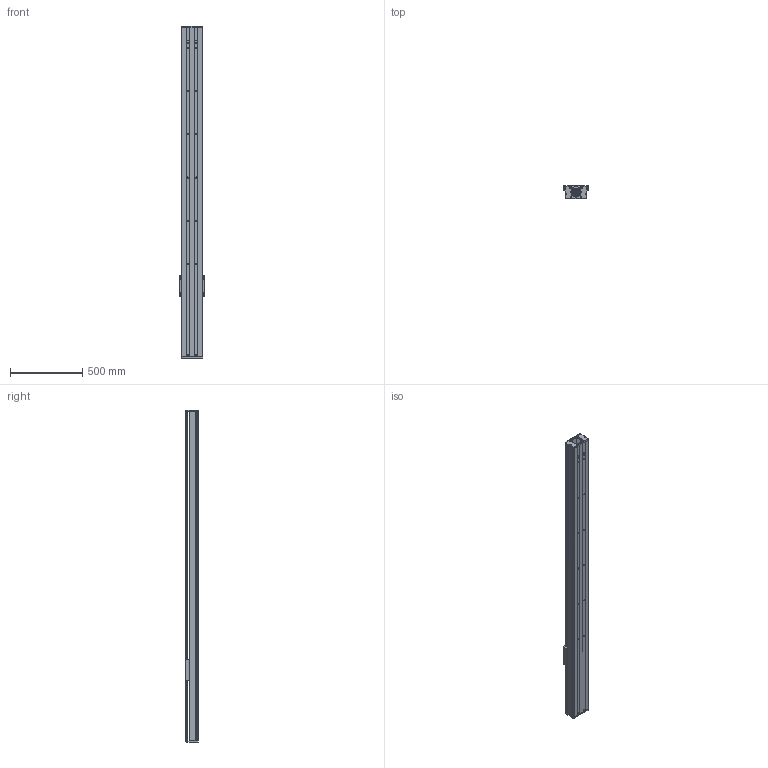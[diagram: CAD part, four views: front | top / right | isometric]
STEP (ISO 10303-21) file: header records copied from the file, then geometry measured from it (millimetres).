
FILE_DESCRIPTION (( 'STEP AP203' ), '1' );
FILE_NAME ('CF150-P2000.STEP', '2016-02-23T05:45:45', ( 'Sky123.Org' ), ( 'Sky123.Org' ), 'SwSTEP 2.0', 'SolidWorks 2015', '' );
FILE_SCHEMA (( 'CONFIG_CONTROL_DESIGN' ));
Length unit declared in the file: millimetre
Products named in the file (20): 蚾饜极2^蚾饜极1; deep groove ball bearings gb_Rolling bearings 6002 GB 276-94; 150賑輸; ѹȦ-15; 150臏倰第; 150耜啣; 长撑圈-15; HGR15絳寢; CF150裔啣; M15X1坶踡蹟譫; hGH15CA賑輸; CF150-P2000; 撑圈-15; BK15+BF15; BK15; 150-20蹟譫釱; 150-86俋离萇儂假蚾啣; SFU2005-3蹟譫; BF15
Assembly tree (24 placements, depth 3):
  CF150-P2000
    150臏倰第
    HGR15絳寢  x2
    hGH15CA賑輸  x4
    BK15+BF15
    150-20蹟譫釱
    150-86俋离萇儂假蚾啣
    BF15
    BK15
      deep groove ball bearings gb_Rolling bearings 6002 GB 276-94  x2
      ѹȦ-15
      长撑圈-15
      M15X1坶踡蹟譫
      撑圈-15
      BK15
    蚾饜极2^蚾饜极1
      SFU2005-3蹟譫
    150賑輸
    150耜啣
    CF150裔啣
Bounding box: 175 x 89 x 2300.24 mm (x, y, z)
Volume: 9965775.1 mm3; surface area: 3090889.9 mm2
Topology: 22 solids, 22 shells, 1472 faces, 4454 edges, 2966 vertices
Faces by surface type: cylinder 727, plane 549, torus 112, sphere 64, cone 16, bspline 4
Entity records: 115680 total; most frequent: CARTESIAN_POINT 85278, ORIENTED_EDGE 6130, DIRECTION 5671, EDGE_CURVE 3065, AXIS2_PLACEMENT_3D 2148, VERTEX_POINT 2040, EDGE_LOOP 1397, VECTOR 1375
